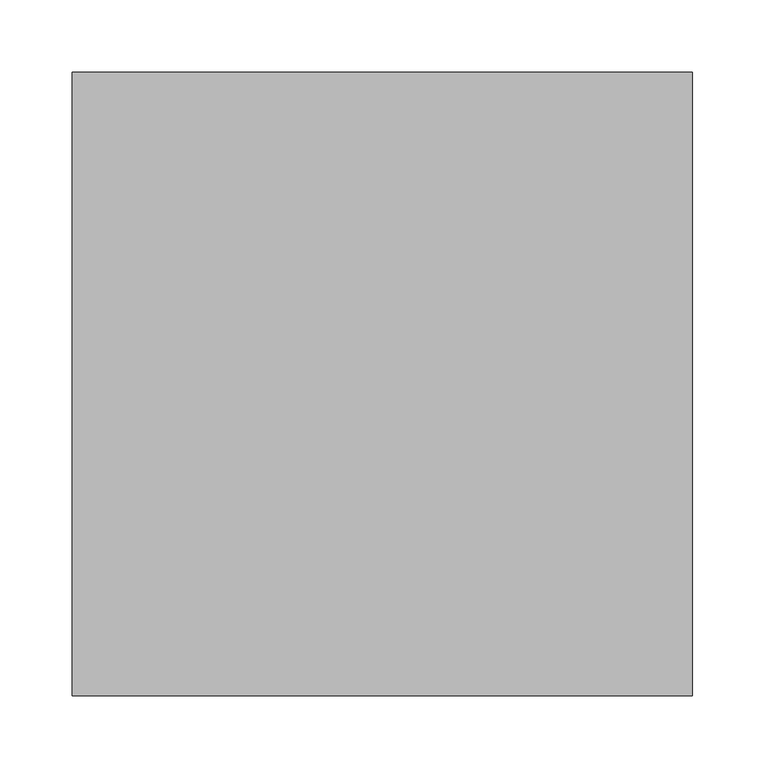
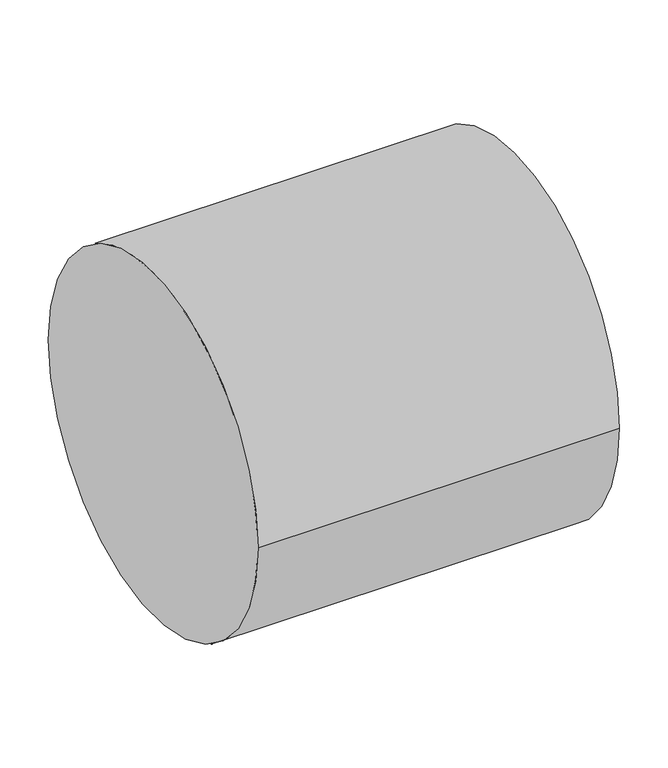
"""IFC4 building model written with IfcOpenShell, lengths in millimetres: pipe fitting geometry, 01051005 : Manchons égaux."""

import ifcopenshell
import ifcopenshell.guid

model = None  # the IFC model being written
_history = None  # IfcOwnerHistory: only IFC2X3 demands one
_inside = {}  # id of a spatial element -> (the spatial element, [elements in it])
_under = {}  # id of a project, library or spatial element -> (it, [spatial elements below it])
_declared = {}  # id of a project -> (the project, [libraries it declares])
_typed = {}  # id of a type object -> (the type object, [elements of that type])
_made_of = {}  # id of a material, layer set ... -> (it, [elements and type objects made of it])


def new_model(schema):
    """Start an empty IFC model of exactly this schema.

    Asked for "IFC4X3", IfcOpenShell would pick the latest addendum, in which some entities
    have other attributes; the version numbers below select the first issue.
    IFC2X3 requires an IfcOwnerHistory on every rooted entity: one is made here for all.
    """
    global model, _history
    if schema == "IFC4X3":
        model = ifcopenshell.file(schema_version=(4, 3, 0, 0))
    else:
        model = ifcopenshell.file(schema=schema)
    _inside.clear()
    _under.clear()
    _declared.clear()
    _typed.clear()
    _made_of.clear()
    _history = None
    if model.schema == "IFC2X3":
        org = make("IfcOrganization", Name="unknown")
        user = make(
            "IfcPersonAndOrganization",
            ThePerson=make("IfcPerson", FamilyName="unknown"),
            TheOrganization=org,
        )
        app = make(
            "IfcApplication",
            ApplicationDeveloper=org,
            Version="unknown",
            ApplicationFullName="unknown",
            ApplicationIdentifier="unknown",
        )
        _history = make(
            "IfcOwnerHistory",
            OwningUser=user,
            OwningApplication=app,
            ChangeAction="ADDED",
            CreationDate=0,
        )
    return model


def make(cls, **values):
    """One entity of the class cls with the attributes given. An attribute that is None is left unset."""
    return model.create_entity(
        cls, **{name: value for name, value in values.items() if value is not None}
    )


def rooted(cls, **values):
    """An entity with a GlobalId (a new one), such as an element, a storey or a relation."""
    return make(cls, GlobalId=ifcopenshell.guid.new(), OwnerHistory=_history, **values)


def si_unit(unit_type, name, prefix=None):
    """IfcSIUnit, for example si_unit("LENGTHUNIT", "METRE", prefix="MILLI")."""
    return make("IfcSIUnit", UnitType=unit_type, Prefix=prefix, Name=name)


def assignment(units):
    """IfcUnitAssignment: the units of a project."""
    return None if units is None else make("IfcUnitAssignment", Units=units)


def point(xyz):
    """IfcCartesianPoint."""
    return None if xyz is None else make("IfcCartesianPoint", Coordinates=xyz)


def direction(xyz):
    """IfcDirection."""
    return None if xyz is None else make("IfcDirection", DirectionRatios=xyz)


def frame(location, z_axis=None, x_axis=None):
    """IfcAxis2Placement3D, a coordinate frame: its origin and axes. An axis left out is left unset."""
    return make(
        "IfcAxis2Placement3D",
        Location=point(location),
        Axis=direction(z_axis),
        RefDirection=direction(x_axis),
    )


def frame_2d(location, x_axis=None):
    """IfcAxis2Placement2D, a coordinate frame in the plane: its origin and x axis."""
    return make(
        "IfcAxis2Placement2D", Location=point(location), RefDirection=direction(x_axis)
    )


def origin():
    """The frame at (0, 0, 0) with its axes left unset."""
    return frame((0.0, 0.0, 0.0))


def origin_2d():
    """The frame at (0, 0) in the plane with its x axis left unset."""
    return frame_2d((0.0, 0.0))


def place(relative_to, where):
    """IfcLocalPlacement: puts the frame where relative to a parent placement (None: the world)."""
    return make(
        "IfcLocalPlacement", PlacementRelTo=relative_to, RelativePlacement=where
    )


def context(
    kind, dimensions, precision=None, world=None, true_north=None, identifier=None
):
    """IfcGeometricRepresentationContext, for example the 3D "Model" context."""
    return make(
        "IfcGeometricRepresentationContext",
        ContextIdentifier=identifier,
        ContextType=kind,
        CoordinateSpaceDimension=dimensions,
        Precision=precision,
        WorldCoordinateSystem=world,
        TrueNorth=true_north,
    )


def project(units=None, contexts=None):
    """IfcProject with its units and contexts."""
    return rooted(
        "IfcProject",
        Name="project",
        RepresentationContexts=contexts,
        UnitsInContext=assignment(units),
    )


def spatial(cls, under=None, at=None, **own):
    """A site, building, storey or space (cls), placed at a placement, below another one or the project."""
    s = rooted(cls, ObjectPlacement=at, **own)
    if under is not None:
        _under.setdefault(under.id(), (under, []))[1].append(s)
    return s


def circle_curve(where, radius):
    """IfcCircle in the frame where."""
    return make("IfcCircle", Position=where, Radius=radius)


def trimmed(basis, trim1, trim2, sense, master):
    """IfcTrimmedCurve: the piece of a basis curve between two trims."""
    return make(
        "IfcTrimmedCurve",
        BasisCurve=basis,
        Trim1=trim1,
        Trim2=trim2,
        SenseAgreement=sense,
        MasterRepresentation=master,
    )


def segment(curve, same_sense, transition):
    """IfcCompositeCurveSegment."""
    return make(
        "IfcCompositeCurveSegment",
        Transition=transition,
        SameSense=same_sense,
        ParentCurve=curve,
    )


def composite_curve(segments, self_intersect=None):
    """IfcCompositeCurve: segments joined end to end."""
    return make("IfcCompositeCurve", Segments=segments, SelfIntersect=self_intersect)


def outline(outer, holes=None, kind="AREA"):
    """IfcArbitraryClosedProfileDef: a profile drawn as a closed curve; with holes, ...WithVoids."""
    if holes is None:
        return make("IfcArbitraryClosedProfileDef", ProfileType=kind, OuterCurve=outer)
    return make(
        "IfcArbitraryProfileDefWithVoids",
        ProfileType=kind,
        OuterCurve=outer,
        InnerCurves=holes,
    )


def extrude(swept, where, along, depth):
    """IfcExtrudedAreaSolid: the profile swept, set in the frame where, extruded along a direction by depth."""
    return make(
        "IfcExtrudedAreaSolid",
        SweptArea=swept,
        Position=where,
        ExtrudedDirection=direction(along),
        Depth=depth,
    )


def shape(context_of_items, identifier, shape_type, items):
    """IfcShapeRepresentation: the items that make up one representation, for example the "Body"."""
    return make(
        "IfcShapeRepresentation",
        ContextOfItems=context_of_items,
        RepresentationIdentifier=identifier,
        RepresentationType=shape_type,
        Items=items,
    )


def source(mapping_origin, context_of_items, identifier, shape_type, items):
    """IfcRepresentationMap: a shape defined once, which mapped items show again and again."""
    return make(
        "IfcRepresentationMap",
        MappingOrigin=mapping_origin,
        MappedRepresentation=shape(context_of_items, identifier, shape_type, items),
    )


def transform(
    local_origin,
    x_axis=None,
    y_axis=None,
    z_axis=None,
    scale=None,
    scale2=None,
    scale3=None,
    uniform=True,
):
    """IfcCartesianTransformationOperator3D, or its non-uniform kind. x_axis, y_axis, z_axis: its Axis1, 2, 3."""
    if uniform:
        return make(
            "IfcCartesianTransformationOperator3D",
            Axis1=direction(x_axis),
            Axis2=direction(y_axis),
            LocalOrigin=point(local_origin),
            Scale=scale,
            Axis3=direction(z_axis),
        )
    return make(
        "IfcCartesianTransformationOperator3DnonUniform",
        Axis1=direction(x_axis),
        Axis2=direction(y_axis),
        LocalOrigin=point(local_origin),
        Scale=scale,
        Axis3=direction(z_axis),
        Scale2=scale2,
        Scale3=scale3,
    )


def mapped(mapping_source, mapping_target):
    """IfcMappedItem: shows the shape of a source again, moved by a transform."""
    return make(
        "IfcMappedItem", MappingSource=mapping_source, MappingTarget=mapping_target
    )


def made_of(thing, what):
    """Note that an element or type object is made of a material, layer set ...; save() writes the relation."""
    if what is not None:
        _made_of.setdefault(what.id(), (what, []))[1].append(thing)
    return thing


def element(
    cls,
    number,
    at=None,
    inside=None,
    cuts=None,
    type_object=None,
    material=None,
    context=None,
    identifier="Body",
    shape_type=None,
    held_by="IfcProductDefinitionShape",
    body=None,
    shapes=None,
    **own,
):
    """One element of the class cls, such as IfcWall. Its Tag is "e" and its number.

    at: its placement. inside: the storey or other place that contains it. cuts: it is an
    opening in that element (IfcRelVoidsElement). A single representation is given by context,
    identifier, shape_type and body (its items); several are given by shapes. held_by: the class
    of the entity that holds the representations. save() writes the other relations.
    """
    e = rooted(cls, Tag="e%d" % number, ObjectPlacement=at, **own)
    if body is not None:
        shapes = [shape(context, identifier, shape_type, body)]
    if shapes is not None:
        e.Representation = make(held_by, Representations=shapes)
    if inside is not None:
        _inside.setdefault(inside.id(), (inside, []))[1].append(e)
    if cuts is not None:
        rooted(
            "IfcRelVoidsElement", RelatingBuildingElement=cuts, RelatedOpeningElement=e
        )
    if type_object is not None:
        _typed.setdefault(type_object.id(), (type_object, []))[1].append(e)
    return made_of(e, material)


def aggregate(whole, parts):
    """IfcRelAggregates: a whole, such as a stair, and the parts it consists of."""
    return rooted("IfcRelAggregates", RelatingObject=whole, RelatedObjects=parts)


def save(model, path):
    """Write the relations noted so far, then the file.

    IfcRelAggregates (storeys below a building ...), IfcRelContainedInSpatialStructure (elements
    in a storey), IfcRelDefinesByType, IfcRelAssociatesMaterial and IfcRelDeclares: one each for
    every whole, place, type object, material and project.
    """
    for whole, parts in _under.values():
        aggregate(whole, parts)
    for where, things in _inside.values():
        rooted(
            "IfcRelContainedInSpatialStructure",
            RelatedElements=things,
            RelatingStructure=where,
        )
    for kind, things in _typed.values():
        rooted("IfcRelDefinesByType", RelatedObjects=things, RelatingType=kind)
    for what, things in _made_of.values():
        rooted("IfcRelAssociatesMaterial", RelatedObjects=things, RelatingMaterial=what)
    for by, libraries in _declared.values():
        rooted("IfcRelDeclares", RelatingContext=by, RelatedDefinitions=libraries)
    model.write(path)


def pipe_fitting_1d7ea10e(model_context):
    return source(origin(), model_context, "Body", "SweptSolid", [
        extrude(outline(composite_curve([segment(trimmed(circle_curve(origin_2d(), 216.0), [point((-216.0, 0.0))], [point((216.0, 0.0))], False, "CARTESIAN"), True, "CONTINUOUS"), segment(trimmed(circle_curve(origin_2d(), 216.0), [point((216.0, 0.0))], [point((-216.0, 0.0))], False, "CARTESIAN"), True, "CONTINUOUS")], self_intersect=False)), frame((-215.0, 0.0, 0.0), z_axis=(1.0, 0.0, 0.0), x_axis=(0.0, 1.0, 0.0)), (0.0, 0.0, 1.0), 430.0),
    ])


if __name__ == "__main__":
    model = new_model("IFC4")
    model_context = context("Model", 3, world=origin())
    ifc_project = project(units=[si_unit("LENGTHUNIT", "METRE", prefix="MILLI")], contexts=[model_context])
    site = spatial("IfcSite", under=ifc_project)
    building = spatial("IfcBuilding", under=site)
    placement = place(None, origin())
    pipe_fitting_shape = pipe_fitting_1d7ea10e(model_context)
    element("IfcPipeFitting", 1, ObjectType="01051005 : Manchons égaux", at=placement, inside=building, context=model_context, shape_type="MappedRepresentation", body=[
        mapped(pipe_fitting_shape, transform((0.0, 0.0, 0.0), x_axis=(1.0, 0.0, 0.0), y_axis=(0.0, 1.0, 0.0), z_axis=(0.0, 0.0, 1.0))),
    ])
    save(model, "model.ifc")
